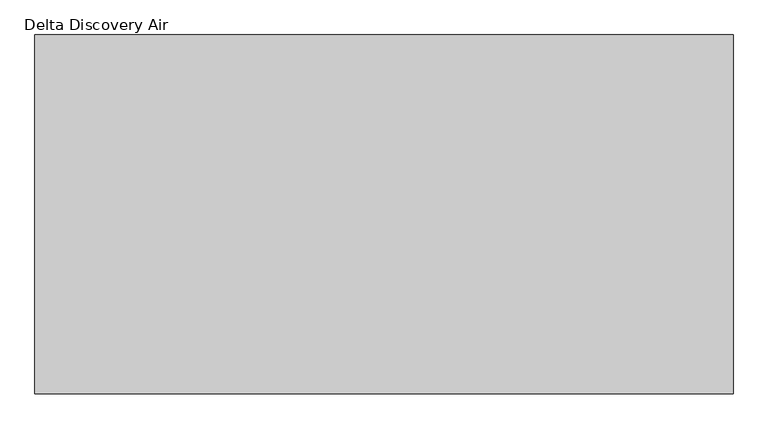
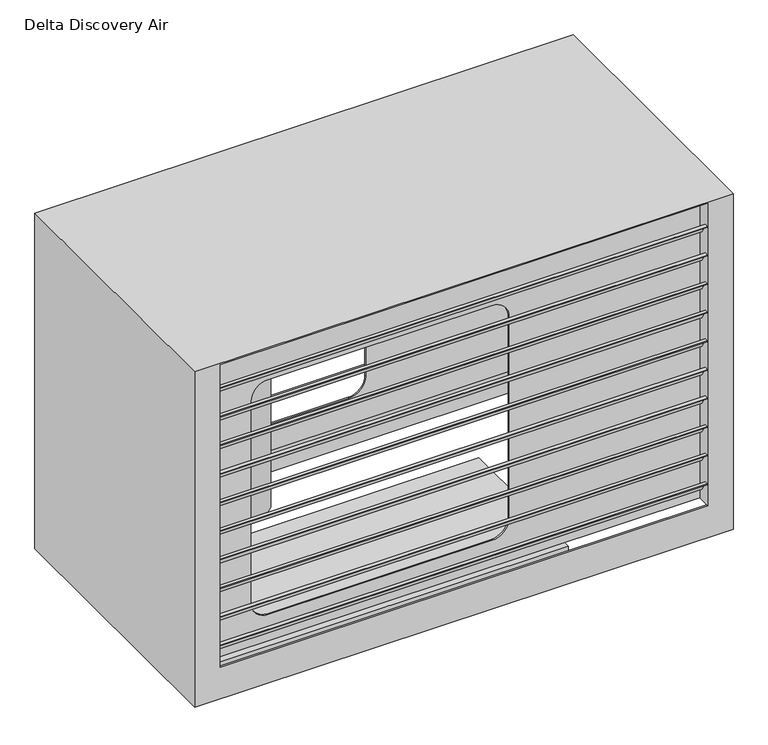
"""IFC4 building model written with IfcOpenShell, lengths in millimetres: unitary equipment geometry, DERS_420_AM_AEB_Delta Discovery Air_M&G : Delta Discovery Air."""

from ifc_helpers import new_model, si_unit, point, frame, frame_2d, origin, place, context, project, spatial, polyline, circle_curve, trimmed, segment, composite_curve, outline, extrude, source, transform, mapped, element, save
from ifc_brep_helpers import plane_surface, revolved_surface, advanced_brep


def delta_discovery_air_83ad3b17(model_context):
    return source(origin(), model_context, "Body", "SolidModel", [
        extrude(outline(polyline([(-806.0, 1010.4023217), (-806.0, 1012.4023217), (-795.1452995, 1012.4023217), (-777.4452995, 981.7450224), (-767.8, 981.7450224), (-767.8, 979.7450224), (-778.6, 979.7450224), (-796.3, 1010.4023217), (-806.0, 1010.4023217)])), frame((-709.0, 0.0, 0.0), z_axis=(1.0, 0.0, 0.0), x_axis=(0.0, 1.0, 0.0)), (0.0, 0.0, 1.0), 1418.0),
        extrude(outline(polyline([(-806.0, 922.3642438), (-806.0, 924.3642438), (-795.1452995, 924.3642438), (-777.4452995, 893.7069446), (-767.8, 893.7069446), (-767.8, 891.7069446), (-778.6, 891.7069446), (-796.3, 922.3642438), (-806.0, 922.3642438)])), frame((-709.0, 0.0, 0.0), z_axis=(1.0, 0.0, 0.0), x_axis=(0.0, 1.0, 0.0)), (0.0, 0.0, 1.0), 1418.0),
        extrude(outline(polyline([(-806.0, 834.326166), (-806.0, 836.326166), (-795.1452995, 836.326166), (-777.4452995, 805.6688667), (-767.8, 805.6688667), (-767.8, 803.6688667), (-778.6, 803.6688667), (-796.3, 834.326166), (-806.0, 834.326166)])), frame((-709.0, 0.0, 0.0), z_axis=(1.0, 0.0, 0.0), x_axis=(0.0, 1.0, 0.0)), (0.0, 0.0, 1.0), 1418.0),
        extrude(outline(polyline([(-806.0, 746.2880881), (-806.0, 748.2880881), (-795.1452995, 748.2880881), (-777.4452995, 717.6307888), (-767.8, 717.6307888), (-767.8, 715.6307888), (-778.6, 715.6307888), (-796.3, 746.2880881), (-806.0, 746.2880881)])), frame((-709.0, 0.0, 0.0), z_axis=(1.0, 0.0, 0.0), x_axis=(0.0, 1.0, 0.0)), (0.0, 0.0, 1.0), 1418.0),
        extrude(outline(polyline([(-806.0, 658.2500103), (-806.0, 660.2500103), (-795.1452995, 660.2500103), (-777.4452995, 629.592711), (-767.8, 629.592711), (-767.8, 627.592711), (-778.6, 627.592711), (-796.3, 658.2500103), (-806.0, 658.2500103)])), frame((-709.0, 0.0, 0.0), z_axis=(1.0, 0.0, 0.0), x_axis=(0.0, 1.0, 0.0)), (0.0, 0.0, 1.0), 1418.0),
        extrude(outline(polyline([(-806.0, 570.2119324), (-806.0, 572.2119324), (-795.1452995, 572.2119324), (-777.4452995, 541.5546331), (-767.8, 541.5546331), (-767.8, 539.5546331), (-778.6, 539.5546331), (-796.3, 570.2119324), (-806.0, 570.2119324)])), frame((-709.0, 0.0, 0.0), z_axis=(1.0, 0.0, 0.0), x_axis=(0.0, 1.0, 0.0)), (0.0, 0.0, 1.0), 1418.0),
        extrude(outline(polyline([(-806.0, 482.1738546), (-806.0, 484.1738546), (-795.1452995, 484.1738546), (-777.4452995, 453.5165553), (-767.8, 453.5165553), (-767.8, 451.5165553), (-778.6, 451.5165553), (-796.3, 482.1738546), (-806.0, 482.1738546)])), frame((-709.0, 0.0, 0.0), z_axis=(1.0, 0.0, 0.0), x_axis=(0.0, 1.0, 0.0)), (0.0, 0.0, 1.0), 1418.0),
        extrude(outline(polyline([(-806.0, 394.1357767), (-806.0, 396.1357767), (-795.1452995, 396.1357767), (-777.4452995, 365.4784774), (-767.8, 365.4784774), (-767.8, 363.4784774), (-778.6, 363.4784774), (-796.3, 394.1357767), (-806.0, 394.1357767)])), frame((-709.0, 0.0, 0.0), z_axis=(1.0, 0.0, 0.0), x_axis=(0.0, 1.0, 0.0)), (0.0, 0.0, 1.0), 1418.0),
        extrude(outline(polyline([(-806.0, 1098.4403996), (-806.0, 1100.4403996), (-795.1452995, 1100.4403996), (-777.4452995, 1069.7831003), (-767.8, 1069.7831003), (-767.8, 1067.7831003), (-778.6, 1067.7831003), (-796.3, 1098.4403996), (-806.0, 1098.4403996)])), frame((-709.0, 0.0, 0.0), z_axis=(1.0, 0.0, 0.0), x_axis=(0.0, 1.0, 0.0)), (0.0, 0.0, 1.0), 1418.0),
        extrude(outline(polyline([(-38.2, 1010.4023217), (-38.2, 1012.4023217), (-27.3452995, 1012.4023217), (-9.6452995, 981.7450224), (0.0, 981.7450224), (0.0, 979.7450224), (-10.8, 979.7450224), (-28.5, 1010.4023217), (-38.2, 1010.4023217)])), frame((-709.0, 0.0, 0.0), z_axis=(1.0, 0.0, 0.0), x_axis=(0.0, 1.0, 0.0)), (0.0, 0.0, 1.0), 1418.0),
        extrude(outline(polyline([(-38.2, 922.3642438), (-38.2, 924.3642438), (-27.3452995, 924.3642438), (-9.6452995, 893.7069446), (0.0, 893.7069446), (0.0, 891.7069446), (-10.8, 891.7069446), (-28.5, 922.3642438), (-38.2, 922.3642438)])), frame((-709.0, 0.0, 0.0), z_axis=(1.0, 0.0, 0.0), x_axis=(0.0, 1.0, 0.0)), (0.0, 0.0, 1.0), 1418.0),
        extrude(outline(polyline([(-38.2, 834.326166), (-38.2, 836.326166), (-27.3452995, 836.326166), (-9.6452995, 805.6688667), (0.0, 805.6688667), (0.0, 803.6688667), (-10.8, 803.6688667), (-28.5, 834.326166), (-38.2, 834.326166)])), frame((-709.0, 0.0, 0.0), z_axis=(1.0, 0.0, 0.0), x_axis=(0.0, 1.0, 0.0)), (0.0, 0.0, 1.0), 1418.0),
        extrude(outline(polyline([(-38.2, 746.2880881), (-38.2, 748.2880881), (-27.3452995, 748.2880881), (-9.6452995, 717.6307888), (0.0, 717.6307888), (0.0, 715.6307888), (-10.8, 715.6307888), (-28.5, 746.2880881), (-38.2, 746.2880881)])), frame((-709.0, 0.0, 0.0), z_axis=(1.0, 0.0, 0.0), x_axis=(0.0, 1.0, 0.0)), (0.0, 0.0, 1.0), 1418.0),
        extrude(outline(polyline([(-38.2, 658.2500103), (-38.2, 660.2500103), (-27.3452995, 660.2500103), (-9.6452995, 629.592711), (0.0, 629.592711), (0.0, 627.592711), (-10.8, 627.592711), (-28.5, 658.2500103), (-38.2, 658.2500103)])), frame((-709.0, 0.0, 0.0), z_axis=(1.0, 0.0, 0.0), x_axis=(0.0, 1.0, 0.0)), (0.0, 0.0, 1.0), 1418.0),
        extrude(outline(polyline([(-38.2, 570.2119324), (-38.2, 572.2119324), (-27.3452995, 572.2119324), (-9.6452995, 541.5546331), (0.0, 541.5546331), (0.0, 539.5546331), (-10.8, 539.5546331), (-28.5, 570.2119324), (-38.2, 570.2119324)])), frame((-709.0, 0.0, 0.0), z_axis=(1.0, 0.0, 0.0), x_axis=(0.0, 1.0, 0.0)), (0.0, 0.0, 1.0), 1418.0),
        extrude(outline(polyline([(-38.2, 482.1738546), (-38.2, 484.1738546), (-27.3452995, 484.1738546), (-9.6452995, 453.5165553), (0.0, 453.5165553), (0.0, 451.5165553), (-10.8, 451.5165553), (-28.5, 482.1738546), (-38.2, 482.1738546)])), frame((-709.0, 0.0, 0.0), z_axis=(1.0, 0.0, 0.0), x_axis=(0.0, 1.0, 0.0)), (0.0, 0.0, 1.0), 1418.0),
        extrude(outline(polyline([(-38.2, 394.1357767), (-38.2, 396.1357767), (-27.3452995, 396.1357767), (-9.6452995, 365.4784774), (0.0, 365.4784774), (0.0, 363.4784774), (-10.8, 363.4784774), (-28.5, 394.1357767), (-38.2, 394.1357767)])), frame((-709.0, 0.0, 0.0), z_axis=(1.0, 0.0, 0.0), x_axis=(0.0, 1.0, 0.0)), (0.0, 0.0, 1.0), 1418.0),
        extrude(outline(polyline([(-38.2, 1098.4403996), (-38.2, 1100.4403996), (-27.3452995, 1100.4403996), (-9.6452995, 1069.7831003), (0.0, 1069.7831003), (0.0, 1067.7831003), (-10.8, 1067.7831003), (-28.5, 1098.4403996), (-38.2, 1098.4403996)])), frame((-709.0, 0.0, 0.0), z_axis=(1.0, 0.0, 0.0), x_axis=(0.0, 1.0, 0.0)), (0.0, 0.0, 1.0), 1418.0),
        extrude(outline(polyline([(-38.2, 306.0976989), (-38.2, 308.0976989), (-27.3452995, 308.0976989), (-9.6452995, 277.4403996), (0.0, 277.4403996), (0.0, 275.4403996), (-10.8, 275.4403996), (-28.5, 306.0976989), (-38.2, 306.0976989)])), frame((-709.0, 0.0, 0.0), z_axis=(1.0, 0.0, 0.0), x_axis=(0.0, 1.0, 0.0)), (0.0, 0.0, 1.0), 1418.0),
        extrude(outline(polyline([(-806.0, 306.0976989), (-806.0, 308.0976989), (-795.1452995, 308.0976989), (-777.4452995, 277.4403996), (-767.8, 277.4403996), (-767.8, 275.4403996), (-778.6, 275.4403996), (-796.3, 306.0976989), (-806.0, 306.0976989)])), frame((-709.0, 0.0, 0.0), z_axis=(1.0, 0.0, 0.0), x_axis=(0.0, 1.0, 0.0)), (0.0, 0.0, 1.0), 1418.0),
        extrude(outline(polyline([(-700.0, -293.0), (340.0, -293.0), (340.0, -743.0), (-700.0, -743.0), (-700.0, -293.0)])), frame((0.0, 0.0, 134.4403996), z_axis=(0.0, 0.0, 1.0), x_axis=(1.0, 0.0, 0.0)), (0.0, 0.0, 1.0), 72.0),
        advanced_brep(
        [(-784.0, 0.0, 1175.4403996), (-784.0, -806.0, 1175.4403996), (784.0, -806.0, 1175.4403996), (784.0, 0.0, 1175.4403996), (-710.0, -40.0, 240.4403996), (710.0, -40.0, 240.4403996), (710.0, -4.0, 240.4403996), (714.0, -4.0, 240.4403996), (714.0, -44.0, 240.4403996), (-714.0, -44.0, 240.4403996), (-714.0, -4.0, 240.4403996), (-710.0, -4.0, 240.4403996), (710.0, -766.0, 240.4403996), (-710.0, -766.0, 240.4403996), (-710.0, -802.0, 240.4403996), (-714.0, -802.0, 240.4403996), (-714.0, -762.0, 240.4403996), (714.0, -762.0, 240.4403996), (714.0, -802.0, 240.4403996), (710.0, -802.0, 240.4403996), (-784.0, 0.0, 142.4403996), (-784.0, -806.0, 142.4403996), (784.0, -806.0, 142.4403996), (710.0, -806.0, 1171.4403996), (710.0, -806.0, 240.4403996), (-710.0, -806.0, 240.4403996), (-710.0, -806.0, 1171.4403996), (784.0, 0.0, 142.4403996), (-710.0, -766.0, 1171.4403996), (710.0, -766.0, 1171.4403996), (-546.0, -766.0, 1044.4403996), (104.0, -766.0, 1044.4403996), (154.0, -766.0, 994.4403996), (154.0, -766.0, 371.4403996), (104.0, -766.0, 321.4403996), (-546.0, -766.0, 321.4403996), (-596.0, -766.0, 371.4403996), (-596.0, -766.0, 994.4403996), (710.0, 0.0, 240.4403996), (710.0, 0.0, 1171.4403996), (-710.0, 0.0, 1171.4403996), (-710.0, 0.0, 240.4403996), (710.0, -40.0, 1171.4403996), (-710.0, -40.0, 1171.4403996), (104.0, -40.0, 1044.4403996), (-546.0, -40.0, 1044.4403996), (-596.0, -40.0, 994.4403996), (-596.0, -40.0, 371.4403996), (-546.0, -40.0, 321.4403996), (104.0, -40.0, 321.4403996), (154.0, -40.0, 371.4403996), (154.0, -40.0, 994.4403996), (-780.0, -802.0, 142.4403996), (-780.0, -4.0, 142.4403996), (-780.0, -4.0, 1171.4403996), (-780.0, -802.0, 1171.4403996), (780.0, -4.0, 142.4403996), (780.0, -4.0, 1171.4403996), (714.0, -4.0, 1171.4403996), (-714.0, -4.0, 1171.4403996), (-714.0, -44.0, 1171.4403996), (714.0, -44.0, 1171.4403996), (-546.0, -44.0, 1044.4403996), (104.0, -44.0, 1044.4403996), (154.0, -44.0, 994.4403996), (154.0, -44.0, 371.4403996), (104.0, -44.0, 321.4403996), (-546.0, -44.0, 321.4403996), (-596.0, -44.0, 371.4403996), (-596.0, -44.0, 994.4403996), (780.0, -802.0, 142.4403996), (780.0, -802.0, 1171.4403996), (-714.0, -802.0, 1171.4403996), (714.0, -802.0, 1171.4403996), (714.0, -762.0, 1171.4403996), (-714.0, -762.0, 1171.4403996), (104.0, -762.0, 1044.4403996), (-546.0, -762.0, 1044.4403996), (-596.0, -762.0, 994.4403996), (-596.0, -762.0, 371.4403996), (-546.0, -762.0, 321.4403996), (104.0, -762.0, 321.4403996), (154.0, -762.0, 371.4403996), (154.0, -762.0, 994.4403996)],
        [
            (0, 1),
            (1, 2),
            (2, 3),
            (3, 0),
            (4, 5),
            (5, 6),
            (6, 7),
            (7, 8),
            (8, 9),
            (9, 10),
            (10, 11),
            (11, 4),
            (12, 13),
            (13, 14),
            (14, 15),
            (15, 16),
            (16, 17),
            (17, 18),
            (18, 19),
            (19, 12),
            (0, 20),
            (20, 21),
            (21, 1),
            (21, 22),
            (22, 2),
            (23, 24),
            (24, 25),
            (25, 26),
            (26, 23),
            (22, 27),
            (27, 3),
            (25, 14),
            (13, 28),
            (28, 26),
            (12, 29),
            (29, 28),
            (30, 31),
            (31, 32, circle_curve(frame((104.0, -766.0, 994.4403996), z_axis=(0.0, 1.0, 0.0), x_axis=(1.0, 0.0, 0.0)), 50.0)),
            (32, 33),
            (33, 34, circle_curve(frame((104.0, -766.0, 371.4403996), z_axis=(0.0, 1.0, 0.0), x_axis=(1.0, 0.0, 0.0)), 50.0)),
            (34, 35),
            (35, 36, circle_curve(frame((-546.0, -766.0, 371.4403996), z_axis=(0.0, 1.0, 0.0), x_axis=(1.0, 0.0, 0.0)), 50.0)),
            (36, 37),
            (37, 30, circle_curve(frame((-546.0, -766.0, 994.4403996), z_axis=(0.0, 1.0, 0.0), x_axis=(1.0, 0.0, 0.0)), 50.0)),
            (23, 29),
            (19, 24),
            (27, 20),
            (38, 39),
            (39, 40),
            (40, 41),
            (41, 38),
            (38, 6),
            (5, 42),
            (42, 39),
            (4, 43),
            (43, 42),
            (44, 45),
            (45, 46, circle_curve(frame((-546.0, -40.0, 994.4403996), z_axis=(0.0, -1.0, 0.0), x_axis=(1.0, 0.0, 0.0)), 50.0)),
            (46, 47),
            (47, 48, circle_curve(frame((-546.0, -40.0, 371.4403996), z_axis=(0.0, -1.0, 0.0), x_axis=(1.0, 0.0, 0.0)), 50.0)),
            (48, 49),
            (49, 50, circle_curve(frame((104.0, -40.0, 371.4403996), z_axis=(0.0, -1.0, 0.0), x_axis=(1.0, 0.0, 0.0)), 50.0)),
            (50, 51),
            (51, 44, circle_curve(frame((104.0, -40.0, 994.4403996), z_axis=(0.0, -1.0, 0.0), x_axis=(1.0, 0.0, 0.0)), 50.0)),
            (11, 41),
            (40, 43),
            (52, 53),
            (53, 54),
            (54, 55),
            (55, 52),
            (53, 56),
            (56, 57),
            (57, 58),
            (58, 7),
            (6, 11),
            (10, 59),
            (59, 54),
            (9, 60),
            (60, 59),
            (8, 61),
            (61, 60),
            (62, 63),
            (63, 64, circle_curve(frame((104.0, -44.0, 994.4403996), z_axis=(0.0, 1.0, 0.0), x_axis=(1.0, 0.0, 0.0)), 50.0)),
            (64, 65),
            (65, 66, circle_curve(frame((104.0, -44.0, 371.4403996), z_axis=(0.0, 1.0, 0.0), x_axis=(1.0, 0.0, 0.0)), 50.0)),
            (66, 67),
            (67, 68, circle_curve(frame((-546.0, -44.0, 371.4403996), z_axis=(0.0, 1.0, 0.0), x_axis=(1.0, 0.0, 0.0)), 50.0)),
            (68, 69),
            (69, 62, circle_curve(frame((-546.0, -44.0, 994.4403996), z_axis=(0.0, 1.0, 0.0), x_axis=(1.0, 0.0, 0.0)), 50.0)),
            (58, 61),
            (56, 70),
            (70, 71),
            (71, 57),
            (70, 52),
            (55, 72),
            (72, 15),
            (14, 19),
            (18, 73),
            (73, 71),
            (17, 74),
            (74, 73),
            (16, 75),
            (75, 74),
            (76, 77),
            (77, 78, circle_curve(frame((-546.0, -762.0, 994.4403996), z_axis=(0.0, -1.0, 0.0), x_axis=(1.0, 0.0, 0.0)), 50.0)),
            (78, 79),
            (79, 80, circle_curve(frame((-546.0, -762.0, 371.4403996), z_axis=(0.0, -1.0, 0.0), x_axis=(1.0, 0.0, 0.0)), 50.0)),
            (80, 81),
            (81, 82, circle_curve(frame((104.0, -762.0, 371.4403996), z_axis=(0.0, -1.0, 0.0), x_axis=(1.0, 0.0, 0.0)), 50.0)),
            (82, 83),
            (83, 76, circle_curve(frame((104.0, -762.0, 994.4403996), z_axis=(0.0, -1.0, 0.0), x_axis=(1.0, 0.0, 0.0)), 50.0)),
            (72, 75),
            (44, 63),
            (62, 45),
            (76, 31),
            (30, 77),
            (69, 46),
            (37, 78),
            (68, 47),
            (36, 79),
            (67, 48),
            (35, 80),
            (66, 49),
            (34, 81),
            (65, 50),
            (33, 82),
            (64, 51),
            (32, 83),
        ],
        [
            plane_surface(frame((-784.0, -806.0, 1175.4403996), z_axis=(0.0, 0.0, 1.0), x_axis=(0.0, -1.0, 0.0))),
            plane_surface(frame((-784.0, -806.0, 240.4403996), z_axis=(0.0, 0.0, -1.0), x_axis=(0.0, 1.0, 0.0))),
            plane_surface(frame((-784.0, 0.0, 1175.4403996), z_axis=(-1.0, 0.0, 0.0), x_axis=(0.0, 0.0, -1.0))),
            plane_surface(frame((710.0, -806.0, 1175.4403996), z_axis=(0.0, -1.0, 0.0), x_axis=(0.0, 0.0, -1.0))),
            plane_surface(frame((784.0, -806.0, 1175.4403996), z_axis=(1.0, 0.0, 0.0), x_axis=(0.0, 0.0, -1.0))),
            plane_surface(frame((-710.0, -806.0, 1175.4403996), z_axis=(1.0, 0.0, 0.0), x_axis=(0.0, 0.0, -1.0))),
            plane_surface(frame((-710.0, -766.0, 1175.4403996), z_axis=(0.0, -1.0, 0.0), x_axis=(0.0, 0.0, -1.0))),
            plane_surface(frame((710.0, -766.0, 1175.4403996), z_axis=(-1.0, 0.0, 0.0), x_axis=(0.0, 0.0, -1.0))),
            plane_surface(frame((784.0, 0.0, 1175.4403996), z_axis=(0.0, 1.0, 0.0), x_axis=(0.0, 0.0, -1.0))),
            plane_surface(frame((710.0, 0.0, 1175.4403996), z_axis=(-1.0, 0.0, 0.0), x_axis=(0.0, 0.0, -1.0))),
            plane_surface(frame((710.0, -40.0, 1175.4403996), z_axis=(0.0, 1.0, 0.0), x_axis=(0.0, 0.0, -1.0))),
            plane_surface(frame((-710.0, -40.0, 1175.4403996), z_axis=(1.0, 0.0, 0.0), x_axis=(0.0, 0.0, -1.0))),
            plane_surface(frame((-780.0, -802.0, 1175.4403996), z_axis=(1.0, 0.0, 0.0), x_axis=(0.0, 0.0, -1.0))),
            plane_surface(frame((-780.0, -4.0, 1175.4403996), z_axis=(0.0, -1.0, 0.0), x_axis=(0.0, 0.0, -1.0))),
            plane_surface(frame((-714.0, -4.0, 1175.4403996), z_axis=(-1.0, 0.0, 0.0), x_axis=(0.0, 0.0, -1.0))),
            plane_surface(frame((-714.0, -44.0, 1175.4403996), z_axis=(0.0, -1.0, 0.0), x_axis=(0.0, 0.0, -1.0))),
            plane_surface(frame((714.0, -44.0, 1175.4403996), z_axis=(1.0, 0.0, 0.0), x_axis=(0.0, 0.0, -1.0))),
            plane_surface(frame((780.0, -4.0, 1175.4403996), z_axis=(-1.0, 0.0, 0.0), x_axis=(0.0, 0.0, -1.0))),
            plane_surface(frame((780.0, -802.0, 1175.4403996), z_axis=(0.0, 1.0, 0.0), x_axis=(0.0, 0.0, -1.0))),
            plane_surface(frame((714.0, -802.0, 1175.4403996), z_axis=(1.0, 0.0, 0.0), x_axis=(0.0, 0.0, -1.0))),
            plane_surface(frame((714.0, -762.0, 1175.4403996), z_axis=(0.0, 1.0, 0.0), x_axis=(0.0, 0.0, -1.0))),
            plane_surface(frame((-714.0, -762.0, 1175.4403996), z_axis=(-1.0, 0.0, 0.0), x_axis=(0.0, 0.0, -1.0))),
            plane_surface(frame((104.0, -973.4559026, 1044.4403996), z_axis=(0.0, 0.0, -1.0), x_axis=(0.0, 1.0, 0.0))),
            revolved_surface(polyline([(-496.0, -44.0, 994.4403996), (-496.0, -40.0, 994.4403996)]), (-546.0, 100.0, 994.4403996), (0.0, -1.0, 0.0)),
            revolved_surface(polyline([(-496.0, -766.0, 994.4403996), (-496.0, -762.0, 994.4403996)]), (-546.0, 100.0, 994.4403996), (0.0, -1.0, 0.0)),
            plane_surface(frame((-596.0, -973.4559026, 994.4403996), z_axis=(1.0, 0.0, 0.0), x_axis=(0.0, 1.0, 0.0))),
            revolved_surface(polyline([(-496.0, -44.0, 371.4403996), (-496.0, -40.0, 371.4403996)]), (-546.0, 100.0, 371.4403996), (0.0, -1.0, 0.0)),
            revolved_surface(polyline([(-496.0, -766.0, 371.4403996), (-496.0, -762.0, 371.4403996)]), (-546.0, 100.0, 371.4403996), (0.0, -1.0, 0.0)),
            plane_surface(frame((-546.0, -973.4559026, 321.4403996), z_axis=(0.0, 0.0, 1.0), x_axis=(0.0, 1.0, 0.0))),
            revolved_surface(polyline([(154.0, -44.0, 371.4403996), (154.0, -40.0, 371.4403996)]), (104.0, 100.0, 371.4403996), (0.0, -1.0, 0.0)),
            revolved_surface(polyline([(154.0, -766.0, 371.4403996), (154.0, -762.0, 371.4403996)]), (104.0, 100.0, 371.4403996), (0.0, -1.0, 0.0)),
            plane_surface(frame((154.0, -973.4559026, 371.4403996), z_axis=(-1.0, 0.0, 0.0), x_axis=(0.0, 1.0, 0.0))),
            revolved_surface(polyline([(154.0, -44.0, 994.4403996), (154.0, -40.0, 994.4403996)]), (104.0, 100.0, 994.4403996), (0.0, -1.0, 0.0)),
            revolved_surface(polyline([(154.0, -766.0, 994.4403996), (154.0, -762.0, 994.4403996)]), (104.0, 100.0, 994.4403996), (0.0, -1.0, 0.0)),
            plane_surface(frame((-784.0, 0.0, 1171.4403996), z_axis=(0.0, 0.0, -1.0), x_axis=(1.0, 0.0, 0.0))),
            plane_surface(frame((-784.0, -806.0, 142.4403996), z_axis=(0.0, 0.0, -1.0), x_axis=(0.0, 1.0, 0.0))),
            plane_surface(frame((-784.0, -806.0, 240.4403996), z_axis=(0.0, 0.0, 1.0), x_axis=(0.0, -1.0, 0.0))),
        ],
        [
            (0, [[1, 2, 3, 4]]),
            (1, [[5, 6, 7, 8, 9, 10, 11, 12]]),
            (1, [[13, 14, 15, 16, 17, 18, 19, 20]]),
            (2, [[-1, 21, 22, 23]]),
            (3, [[-23, 24, 25, -2], [26, 27, 28, 29]]),
            (4, [[-3, -25, 30, 31]]),
            (5, [[-28, 32, -14, 33, 34]]),
            (6, [[-13, 35, 36, -33], [37, 38, 39, 40, 41, 42, 43, 44]]),
            (7, [[-26, 45, -35, -20, 46]]),
            (8, [[-31, 47, -21, -4], [48, 49, 50, 51]]),
            (9, [[-48, 52, -6, 53, 54]]),
            (10, [[-5, 55, 56, -53], [57, 58, 59, 60, 61, 62, 63, 64]]),
            (11, [[-55, -12, 65, -50, 66]]),
            (12, [[67, 68, 69, 70]]),
            (13, [[-68, 71, 72, 73, 74, -7, 75, -11, 76, 77]]),
            (14, [[-10, 78, 79, -76]]),
            (15, [[-9, 80, 81, -78], [82, 83, 84, 85, 86, 87, 88, 89]]),
            (16, [[-8, -74, 90, -80]]),
            (17, [[-72, 91, 92, 93]]),
            (18, [[-92, 94, -70, 95, 96, -15, 97, -19, 98, 99]]),
            (19, [[-18, 100, 101, -98]]),
            (20, [[-17, 102, 103, -100], [104, 105, 106, 107, 108, 109, 110, 111]]),
            (21, [[-16, -96, 112, -102]]),
            (22, [[113, -82, 114, -57]]),
            (22, [[115, -37, 116, -104]]),
            (23, [[-114, -89, 117, -58]]),
            (24, [[-116, -44, 118, -105]]),
            (25, [[-117, -88, 119, -59]]),
            (25, [[-118, -43, 120, -106]]),
            (26, [[-119, -87, 121, -60]]),
            (27, [[-120, -42, 122, -107]]),
            (28, [[-121, -86, 123, -61]]),
            (28, [[-122, -41, 124, -108]]),
            (29, [[-123, -85, 125, -62]]),
            (30, [[-124, -40, 126, -109]]),
            (31, [[-125, -84, 127, -63]]),
            (31, [[-126, -39, 128, -110]]),
            (32, [[-113, -64, -127, -83]]),
            (33, [[-115, -111, -128, -38]]),
            (34, [[-29, -34, -36, -45]]),
            (34, [[-49, -54, -56, -66]]),
            (34, [[-69, -77, -79, -81, -90, -73, -93, -99, -101, -103, -112, -95]]),
            (35, [[-47, -30, -24, -22], [-94, -91, -71, -67]]),
            (36, [[-27, -46, -97, -32]]),
            (36, [[-51, -65, -75, -52]]),
        ],
    ),
        extrude(outline(composite_curve([segment(trimmed(circle_curve(frame_2d((-268.0, -185.5)), 55.0), [point((-213.0, -185.5))], [point((-323.0, -185.5))], False, "CARTESIAN"), True, "CONTINUOUS"), segment(trimmed(circle_curve(frame_2d((-268.0, -185.5)), 55.0), [point((-323.0, -185.5))], [point((-213.0, -185.5))], False, "CARTESIAN"), True, "CONTINUOUS")], self_intersect=False)), frame((0.0, 0.0, 206.4403996), z_axis=(0.0, 0.0, 1.0), x_axis=(1.0, 0.0, 0.0)), (0.0, 0.0, 1.0), 965.0),
        extrude(outline(composite_curve([segment(trimmed(circle_curve(frame_2d((-438.0, -185.5)), 100.0), [point((-338.0, -185.5))], [point((-538.0, -185.5))], False, "CARTESIAN"), True, "CONTINUOUS"), segment(trimmed(circle_curve(frame_2d((-438.0, -185.5)), 100.0), [point((-538.0, -185.5))], [point((-338.0, -185.5))], False, "CARTESIAN"), True, "CONTINUOUS")], self_intersect=False)), frame((0.0, 0.0, 206.4403996), z_axis=(0.0, 0.0, 1.0), x_axis=(1.0, 0.0, 0.0)), (0.0, 0.0, 1.0), 320.0),
    ])


if __name__ == "__main__":
    model = new_model("IFC4")
    model_context = context("Model", 3, world=origin())
    ifc_project = project(units=[si_unit("LENGTHUNIT", "METRE", prefix="MILLI")], contexts=[model_context])
    site = spatial("IfcSite", under=ifc_project)
    building = spatial("IfcBuilding", under=site)
    placement = place(None, origin())
    delta_discovery_air_shape = delta_discovery_air_83ad3b17(model_context)
    element("IfcUnitaryEquipment", 1, ObjectType="DERS_420_AM_AEB_Delta Discovery Air_M&G : Delta Discovery Air", at=placement, inside=building, context=model_context, shape_type="MappedRepresentation", body=[
        mapped(delta_discovery_air_shape, transform((0.0, 0.0, 0.0), x_axis=(1.0, 0.0, 0.0), y_axis=(0.0, 1.0, 0.0), z_axis=(0.0, 0.0, 1.0))),
    ])
    save(model, "model.ifc")
